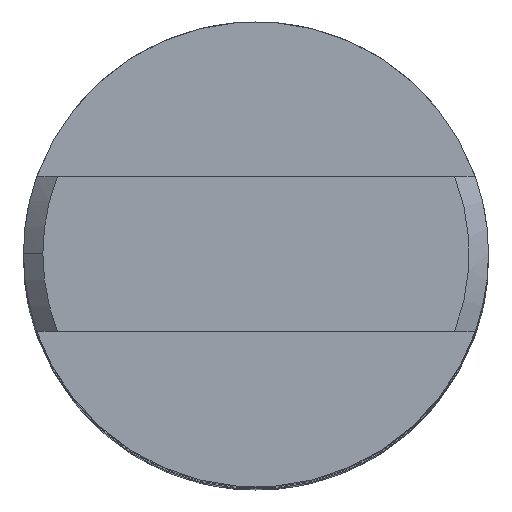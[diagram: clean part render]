
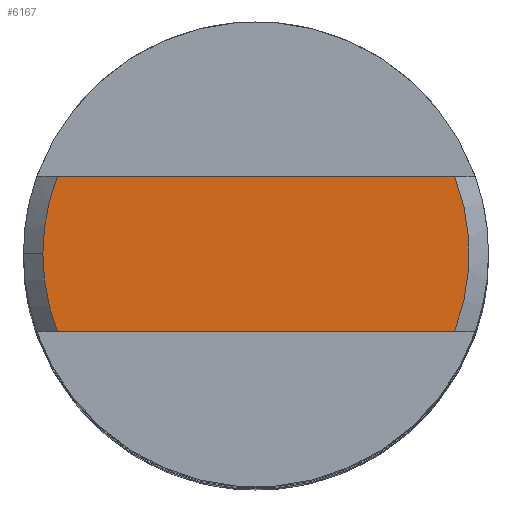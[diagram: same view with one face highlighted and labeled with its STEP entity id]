
A CAD part, top view. The second image highlights one B-rep face of the part: STEP entity #6167.
In plain terms, the highlighted planar face has unit normal (0, 0, 1).
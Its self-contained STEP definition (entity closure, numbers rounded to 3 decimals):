
#59 = CARTESIAN_POINT ( 'NONE',  ( -5.657, -2., 35. ) ) ;
#585 = DIRECTION ( 'NONE',  ( 0., 0., -1. ) ) ;
#731 = CARTESIAN_POINT ( 'NONE',  ( 0., 0., 35. ) ) ;
#735 = AXIS2_PLACEMENT_3D ( 'NONE', #2451, #4694, #1833 ) ;
#1074 = AXIS2_PLACEMENT_3D ( 'NONE', #4453, #4989, #5501 ) ;
#1419 = EDGE_LOOP ( 'NONE', ( #6906, #5955, #4060, #4498, #5321 ) ) ;
#1596 = VERTEX_POINT ( 'NONE', #2669 ) ;
#1715 = EDGE_CURVE ( 'NONE', #4888, #3554, #5365, .T. ) ;
#1833 = DIRECTION ( 'NONE',  ( -1., 0., 0. ) ) ;
#1884 = EDGE_CURVE ( 'NONE', #5481, #1596, #6775, .T. ) ;
#2100 = CARTESIAN_POINT ( 'NONE',  ( 5.123, 2., 35. ) ) ;
#2274 = DIRECTION ( 'NONE',  ( -1., 0., 0. ) ) ;
#2376 = EDGE_CURVE ( 'NONE', #1596, #2832, #4092, .T. ) ;
#2451 = CARTESIAN_POINT ( 'NONE',  ( 0., 0., 35. ) ) ;
#2669 = CARTESIAN_POINT ( 'NONE',  ( -5.5, 0., 35. ) ) ;
#2832 = VERTEX_POINT ( 'NONE', #2971 ) ;
#2872 = FACE_OUTER_BOUND ( 'NONE', #1419, .T. ) ;
#2971 = CARTESIAN_POINT ( 'NONE',  ( -5.123, -2., 35. ) ) ;
#3366 = VECTOR ( 'NONE', #5582, 1000. ) ;
#3389 = CARTESIAN_POINT ( 'NONE',  ( 0., 0., 35. ) ) ;
#3554 = VERTEX_POINT ( 'NONE', #2100 ) ;
#3617 = CARTESIAN_POINT ( 'NONE',  ( -5.123, 2., 35. ) ) ;
#3820 = DIRECTION ( 'NONE',  ( -1., 0., 0. ) ) ;
#3834 = LINE ( 'NONE', #4457, #3366 ) ;
#4060 = ORIENTED_EDGE ( 'NONE', *, *, #2376, .T. ) ;
#4075 = VECTOR ( 'NONE', #2274, 1000. ) ;
#4092 = CIRCLE ( 'NONE', #5242, 5.5 ) ;
#4453 = CARTESIAN_POINT ( 'NONE',  ( 0., 0., 35. ) ) ;
#4457 = CARTESIAN_POINT ( 'NONE',  ( -5.657, 2., 35. ) ) ;
#4498 = ORIENTED_EDGE ( 'NONE', *, *, #5337, .F. ) ;
#4694 = DIRECTION ( 'NONE',  ( 0., 0., 1. ) ) ;
#4888 = VERTEX_POINT ( 'NONE', #5011 ) ;
#4989 = DIRECTION ( 'NONE',  ( 0., 0., 1. ) ) ;
#5011 = CARTESIAN_POINT ( 'NONE',  ( 5.123, -2., 35. ) ) ;
#5027 = LINE ( 'NONE', #59, #4075 ) ;
#5079 = PLANE ( 'NONE',  #5117 ) ;
#5117 = AXIS2_PLACEMENT_3D ( 'NONE', #3389, #585, #6139 ) ;
#5162 = EDGE_CURVE ( 'NONE', #5481, #3554, #3834, .T. ) ;
#5242 = AXIS2_PLACEMENT_3D ( 'NONE', #731, #6633, #3820 ) ;
#5321 = ORIENTED_EDGE ( 'NONE', *, *, #1715, .T. ) ;
#5337 = EDGE_CURVE ( 'NONE', #4888, #2832, #5027, .T. ) ;
#5365 = CIRCLE ( 'NONE', #1074, 5.5 ) ;
#5481 = VERTEX_POINT ( 'NONE', #3617 ) ;
#5501 = DIRECTION ( 'NONE',  ( -1., 0., 0. ) ) ;
#5582 = DIRECTION ( 'NONE',  ( 1., 0., 0. ) ) ;
#5955 = ORIENTED_EDGE ( 'NONE', *, *, #1884, .T. ) ;
#6139 = DIRECTION ( 'NONE',  ( -1., 0., 0. ) ) ;
#6167 = ADVANCED_FACE ( 'NONE', ( #2872 ), #5079, .F. ) ;
#6633 = DIRECTION ( 'NONE',  ( 0., 0., 1. ) ) ;
#6775 = CIRCLE ( 'NONE', #735, 5.5 ) ;
#6906 = ORIENTED_EDGE ( 'NONE', *, *, #5162, .F. ) ;
